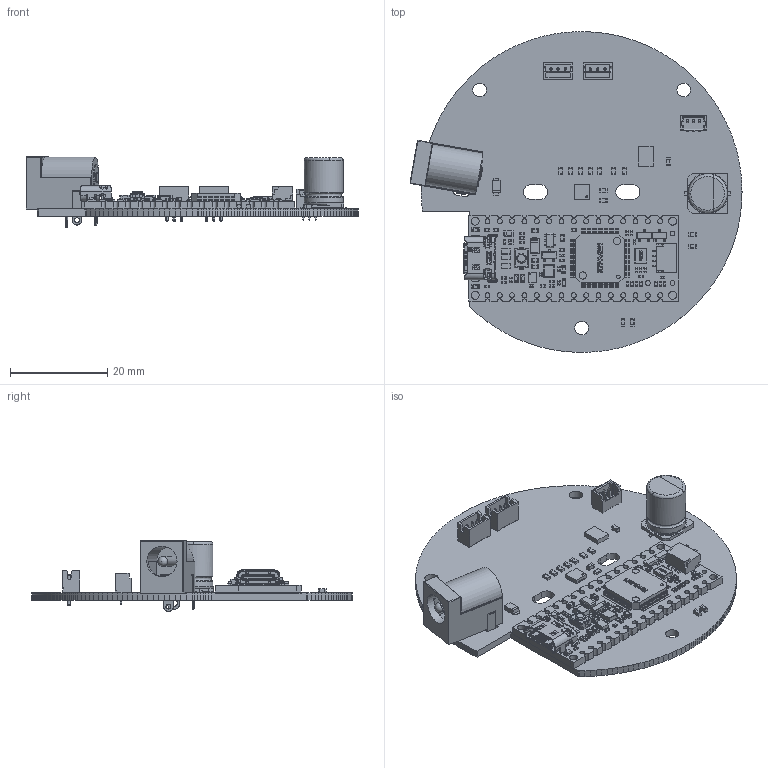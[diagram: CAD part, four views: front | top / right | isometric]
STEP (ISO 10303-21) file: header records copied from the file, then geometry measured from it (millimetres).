
FILE_DESCRIPTION(('KiCad electronic assembly'),'2;1');
FILE_NAME('123.step','2026-06-03T16:02:03',('Pcbnew'),('Kicad'), 'Open CASCADE STEP processor 7.9','KiCad to STEP converter','Unknown' );
FILE_SCHEMA(('AUTOMOTIVE_DESIGN { 1 0 10303 214 1 1 1 1 }'));
Length unit declared in the file: millimetre
Products named in the file (172): 123 1; BarrelJack_Horizontal; R_0603_1608Metric; C_0603_1608Metric; ZH1.50MM 3P Li; B3B-ZR; BxB-ZR_3; pin_straight; pin_Bent; CP_Elec_8x10.5; CP_Elec_8x105; Arduino R4 Nano; PCB; Board; Open CASCADE STEP translator 7.5 4.1.1; C1; CAP-0402; L1; FER-0603; C24; CAP-0603; Z3; 6855924864; Extruded; Q1; SOT-23; D1; SOD123FL; 8279795424; Body; Open CASCADE STEP translator 7.5 15.1.1; lead; R25; RES-0402; Q2; 6734649824; Open CASCADE STEP translator 6.8 13.1.1; Leader; Z2; Z1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
Assembly tree (302 placements, depth 9):
  123 1
    BarrelJack_Horizontal
      BarrelJack_Horizontal
    R_0603_1608Metric  x8
      R_0603_1608Metric
    C_0603_1608Metric  x6
      C_0603_1608Metric
    ZH1.50MM 3P Li  x2
      B3B-ZR
        BxB-ZR_3
        pin_straight  x2
        pin_Bent
    CP_Elec_8x10.5
      CP_Elec_8x105
    Arduino R4 Nano
      PCB
        Board
          Open CASCADE STEP translator 7.5 4.1.1
        C1
          CAP-0402
        L1
          FER-0603
        C24
          CAP-0603
        Z3
          6855924864
            Extruded
        Q1
          SOT-23
        D1
          SOD123FL
            8279795424
              Body
                Open CASCADE STEP translator 7.5 15.1.1
              lead  x2
        R25
          RES-0402
        Q2
          6734649824
            Body
              Open CASCADE STEP translator 6.8 13.1.1
            Leader  x3
        Z2
          6855924864
            Extruded
        Z1
          6855924864
            Extruded
        R23
          RES-0402
        R22
          RES-0402
        R20
          RES-0402
        DL1
          6855929024
            Extruded
          6855929184
            Extruded
          6855929344
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Bounding box: 68.34 x 66 x 14.6 mm (x, y, z)
Volume: 7841.5 mm3; surface area: 12871.1 mm2
Topology: 201 solids, 203 shells, 7449 faces, 18340 edges, 11081 vertices
Faces by surface type: plane 4949, cylinder 1867, bspline 298, sphere 225, cone 46, revolution 33, torus 29, extrusion 2
Full cylindrical faces by diameter (mm): 0.07 x2, 0.2 x1, 0.45 x2, 0.5 x3, 0.6 x1, 0.73 x6, 0.8 x1, 1 x5, 1.016 x30, 1.5 x4, 1.652 x4, 2 x3, 2.05 x1, 2.8 x3, 6.3 x1, 8 x2
Entity records: 129224 total; most frequent: CARTESIAN_POINT 24226, ORIENTED_EDGE 18533, DIRECTION 17939, EDGE_CURVE 9267, VECTOR 7134, LINE 7132, VERTEX_POINT 5893, AXIS2_PLACEMENT_3D 5394
